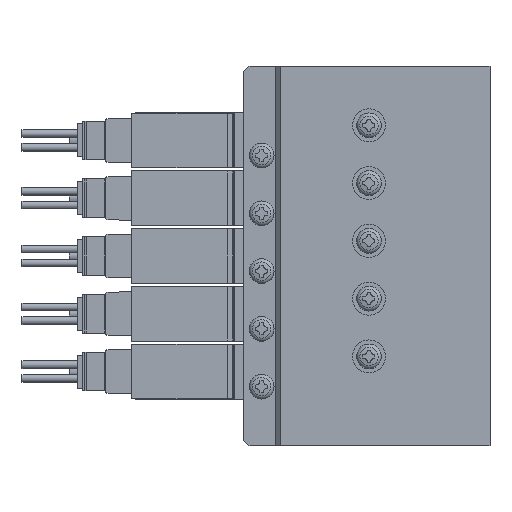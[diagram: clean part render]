
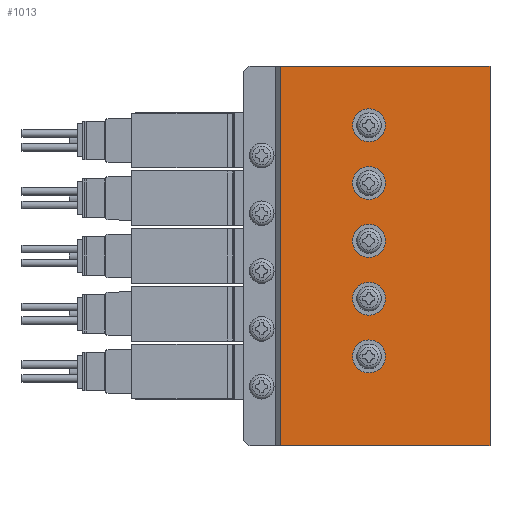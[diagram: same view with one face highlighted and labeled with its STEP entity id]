
A CAD part, left-side view. The second image highlights one B-rep face of the part: STEP entity #1013.
In plain terms, the highlighted planar face has unit normal (-1, 0, 0) as drawn and (1, 0, 0) by its records, which use the part's own axes.
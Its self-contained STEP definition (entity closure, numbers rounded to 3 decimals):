
#1013=ADVANCED_FACE('',(#2361,#2362,#2363,#2364,#2365,#2366),#2367,.F.);
#2361=FACE_OUTER_BOUND('',#3816,.T.);
#2362=FACE_BOUND('',#3817,.T.);
#2363=FACE_BOUND('',#3818,.T.);
#2364=FACE_BOUND('',#3819,.T.);
#2365=FACE_BOUND('',#3820,.T.);
#2366=FACE_BOUND('',#3821,.T.);
#2367=PLANE('',#3822);
#3816=EDGE_LOOP('',(#8229,#8230,#8231,#8232));
#3817=EDGE_LOOP('',(#8233));
#3818=EDGE_LOOP('',(#8234));
#3819=EDGE_LOOP('',(#8235));
#3820=EDGE_LOOP('',(#8236));
#3821=EDGE_LOOP('',(#8237));
#3822=AXIS2_PLACEMENT_3D('',#8238,#8239,#8240);
#8229=ORIENTED_EDGE('',*,*,#10073,.T.);
#8230=ORIENTED_EDGE('',*,*,#10006,.F.);
#8231=ORIENTED_EDGE('',*,*,#9926,.F.);
#8232=ORIENTED_EDGE('',*,*,#9744,.T.);
#8233=ORIENTED_EDGE('',*,*,#10147,.F.);
#8234=ORIENTED_EDGE('',*,*,#10004,.F.);
#8235=ORIENTED_EDGE('',*,*,#10148,.F.);
#8236=ORIENTED_EDGE('',*,*,#10149,.F.);
#8237=ORIENTED_EDGE('',*,*,#9699,.F.);
#8238=CARTESIAN_POINT('',(19.0,0.0,34.5));
#8239=DIRECTION('',(-1.0,0.0,0.0));
#8240=DIRECTION('',(0.0,0.0,1.0));
#9699=EDGE_CURVE('',#11817,#11817,#11818,.T.);
#9744=EDGE_CURVE('',#11903,#11901,#11904,.T.);
#9926=EDGE_CURVE('',#11903,#12244,#12245,.T.);
#10004=EDGE_CURVE('',#12374,#12374,#12375,.T.);
#10006=EDGE_CURVE('',#12244,#12376,#12378,.T.);
#10073=EDGE_CURVE('',#11901,#12376,#12487,.T.);
#10147=EDGE_CURVE('',#12596,#12596,#12597,.T.);
#10148=EDGE_CURVE('',#12598,#12598,#12599,.T.);
#10149=EDGE_CURVE('',#12600,#12600,#12601,.T.);
#11817=VERTEX_POINT('',#15629);
#11818=CIRCLE('',#15630,3.0);
#11901=VERTEX_POINT('',#15884);
#11903=VERTEX_POINT('',#15887);
#11904=LINE('',#15888,#15889);
#12244=VERTEX_POINT('',#16573);
#12245=LINE('',#16574,#16575);
#12374=VERTEX_POINT('',#16858);
#12375=CIRCLE('',#16859,3.0);
#12376=VERTEX_POINT('',#16860);
#12378=LINE('',#16863,#16864);
#12487=LINE('',#17083,#17084);
#12596=VERTEX_POINT('',#17300);
#12597=CIRCLE('',#17301,3.0);
#12598=VERTEX_POINT('',#17302);
#12599=CIRCLE('',#17303,3.0);
#12600=VERTEX_POINT('',#17304);
#12601=CIRCLE('',#17305,3.0);
#15629=CARTESIAN_POINT('',(19.0,22.0,4.75));
#15630=AXIS2_PLACEMENT_3D('',#18671,#18672,#18673);
#15884=CARTESIAN_POINT('',(19.0,0.0,-34.5));
#15887=CARTESIAN_POINT('',(19.0,0.0,34.5));
#15888=CARTESIAN_POINT('',(19.0,0.0,34.5));
#15889=VECTOR('',#18746,1.0);
#16573=CARTESIAN_POINT('',(19.0,38.0,34.5));
#16574=CARTESIAN_POINT('',(19.0,0.0,34.5));
#16575=VECTOR('',#19051,1.0);
#16858=CARTESIAN_POINT('',(19.0,22.0,-26.75));
#16859=AXIS2_PLACEMENT_3D('',#19190,#19191,#19192);
#16860=CARTESIAN_POINT('',(19.0,38.0,-34.5));
#16863=CARTESIAN_POINT('',(19.0,38.0,34.5));
#16864=VECTOR('',#19194,1.0);
#17083=CARTESIAN_POINT('',(19.0,0.0,-34.5));
#17084=VECTOR('',#19317,1.0);
#17300=CARTESIAN_POINT('',(19.0,22.0,15.25));
#17301=AXIS2_PLACEMENT_3D('',#19440,#19441,#19442);
#17302=CARTESIAN_POINT('',(19.0,22.0,-16.25));
#17303=AXIS2_PLACEMENT_3D('',#19443,#19444,#19445);
#17304=CARTESIAN_POINT('',(19.0,22.0,-5.75));
#17305=AXIS2_PLACEMENT_3D('',#19446,#19447,#19448);
#18671=CARTESIAN_POINT('',(19.0,22.0,7.75));
#18672=DIRECTION('',(1.0,0.0,0.0));
#18673=DIRECTION('',(0.0,0.0,-1.0));
#18746=DIRECTION('',(0.0,0.0,-1.0));
#19051=DIRECTION('',(0.0,1.0,0.0));
#19190=CARTESIAN_POINT('',(19.0,22.0,-23.75));
#19191=DIRECTION('',(1.0,0.0,0.0));
#19192=DIRECTION('',(0.0,0.0,-1.0));
#19194=DIRECTION('',(0.0,0.0,-1.0));
#19317=DIRECTION('',(0.0,1.0,0.0));
#19440=CARTESIAN_POINT('',(19.0,22.0,18.25));
#19441=DIRECTION('',(1.0,0.0,0.0));
#19442=DIRECTION('',(0.0,0.0,-1.0));
#19443=CARTESIAN_POINT('',(19.0,22.0,-13.25));
#19444=DIRECTION('',(1.0,0.0,0.0));
#19445=DIRECTION('',(0.0,0.0,-1.0));
#19446=CARTESIAN_POINT('',(19.0,22.0,-2.75));
#19447=DIRECTION('',(1.0,0.0,0.0));
#19448=DIRECTION('',(0.0,0.0,-1.0));
